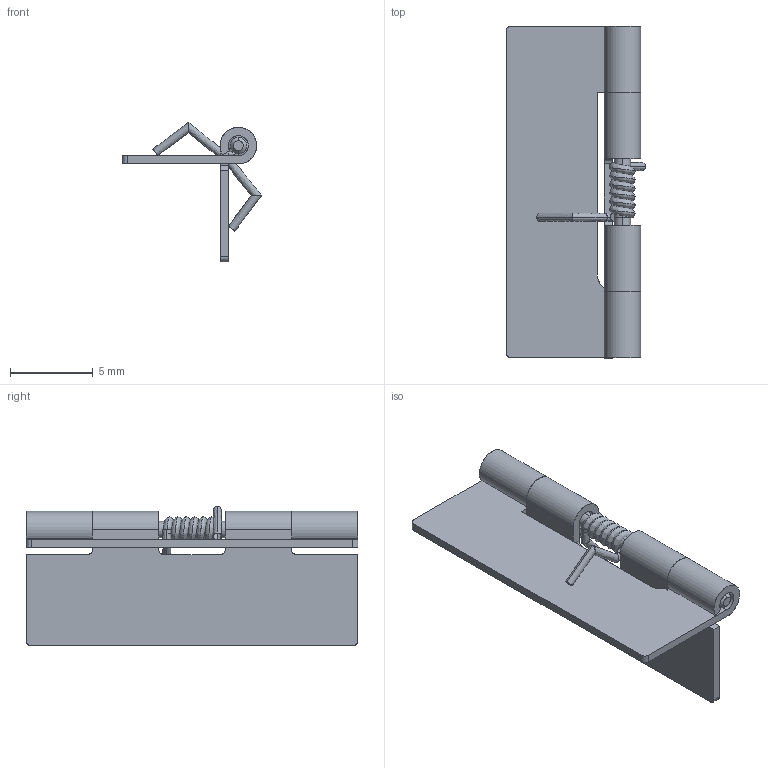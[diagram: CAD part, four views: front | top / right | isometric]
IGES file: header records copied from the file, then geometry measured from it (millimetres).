
Start section: SolidWorks IGES FILE using analytic representation for surfaces
Global section: file name: E:\妙子\仕事\solidworks\ヒンジ20130815\DEH-40\DEH-40-1\DEH-40-1.IGS; native system: SolidWorks 2003 by SolidWorks Corporation; preprocessor: Version 5.3; author: 妙子,,; organization: 11; date: 130815.133300; units: millimetre
Bounding box: 8.42 x 20 x 8.42 mm (x, y, z)
Surface area: 824 mm2 (no closed solid volume)
Topology: 0 solids, 0 shells, 69 faces, 808 edges, 808 vertices
Faces by surface type: revolution 37, bspline 32
